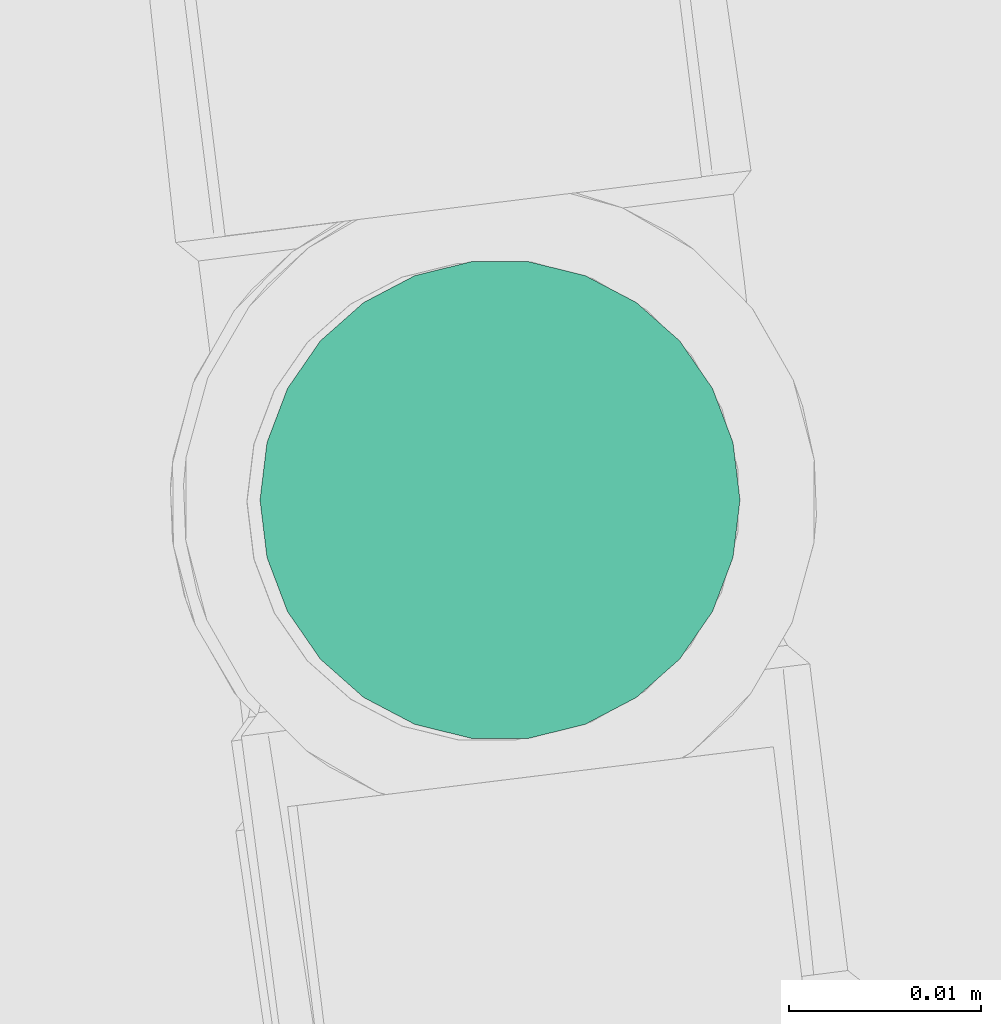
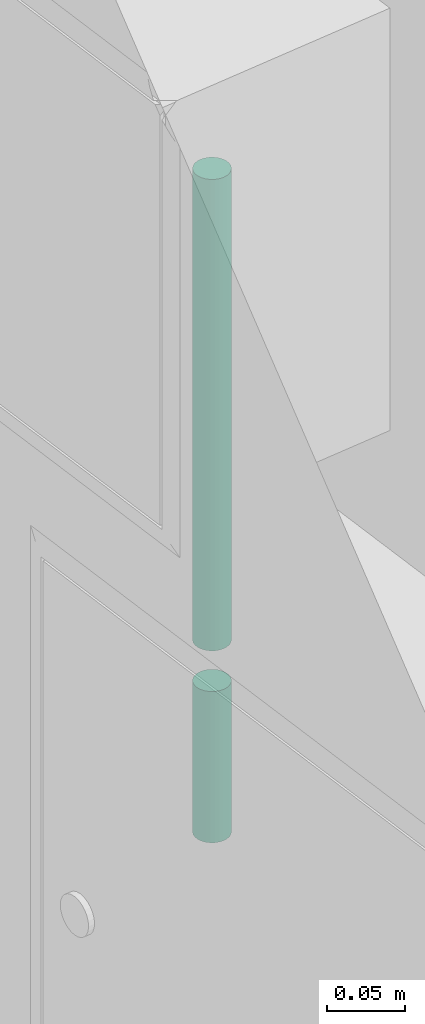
# One storey, part 48 of 97: 2 flow segments.
"""IFC2X3 building model written with IfcOpenShell, lengths in centimetres."""

from ifc_helpers import new_model, entity, si_unit, converted_unit, derived_unit, direction, frame, origin, origin_2d_with_axis, place, context, subcontext, project, spatial, circle, extrude, type_object, element, save


model = new_model("IFC2X3")

# Units and contexts
model_context = context("Model", 3, precision=0.001, world=origin(), true_north=direction((6.12303176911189e-17, 1.0)))
body_context = subcontext(model_context, "Body", "Model", "MODEL_VIEW")
ifc_project = project(units=[si_unit("LENGTHUNIT", "METRE", prefix="CENTI"), si_unit("AREAUNIT", "SQUARE_METRE"), si_unit("VOLUMEUNIT", "CUBIC_METRE"), converted_unit("PLANEANGLEUNIT", "DEGREE", entity("IfcRatioMeasure", 0.0174532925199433), si_unit("PLANEANGLEUNIT", "RADIAN"), dimensions=[0, 0, 0, 0, 0, 0, 0]), si_unit("MASSUNIT", "GRAM", prefix="KILO"), derived_unit("MASSDENSITYUNIT", [(si_unit("MASSUNIT", "GRAM", prefix="KILO"), 1), (si_unit("LENGTHUNIT", "METRE"), -3)]), derived_unit("MOMENTOFINERTIAUNIT", [(si_unit("LENGTHUNIT", "METRE"), 4)]), si_unit("TIMEUNIT", "SECOND"), si_unit("FREQUENCYUNIT", "HERTZ"), si_unit("THERMODYNAMICTEMPERATUREUNIT", "DEGREE_CELSIUS"), derived_unit("THERMALTRANSMITTANCEUNIT", [(si_unit("MASSUNIT", "GRAM", prefix="KILO"), 1), (si_unit("THERMODYNAMICTEMPERATUREUNIT", "KELVIN"), -1), (si_unit("TIMEUNIT", "SECOND"), -3)]), derived_unit("VOLUMETRICFLOWRATEUNIT", [(si_unit("LENGTHUNIT", "METRE"), 3), (si_unit("TIMEUNIT", "SECOND"), -1)]), si_unit("ELECTRICCURRENTUNIT", "AMPERE"), si_unit("ELECTRICVOLTAGEUNIT", "VOLT"), si_unit("POWERUNIT", "WATT"), si_unit("FORCEUNIT", "NEWTON", prefix="KILO"), si_unit("ILLUMINANCEUNIT", "LUX"), si_unit("LUMINOUSFLUXUNIT", "LUMEN"), si_unit("LUMINOUSINTENSITYUNIT", "CANDELA"), derived_unit("USERDEFINED", [(si_unit("MASSUNIT", "GRAM", prefix="KILO"), -1), (si_unit("LENGTHUNIT", "METRE"), -2), (si_unit("TIMEUNIT", "SECOND"), 3), (si_unit("LUMINOUSFLUXUNIT", "LUMEN"), 1)]), derived_unit("LINEARVELOCITYUNIT", [(si_unit("LENGTHUNIT", "METRE"), 1), (si_unit("TIMEUNIT", "SECOND"), -1)]), si_unit("PRESSUREUNIT", "PASCAL"), derived_unit("USERDEFINED", [(si_unit("LENGTHUNIT", "METRE"), -2), (si_unit("MASSUNIT", "GRAM", prefix="KILO"), 1), (si_unit("TIMEUNIT", "SECOND"), -2)]), derived_unit("LINEARFORCEUNIT", [(si_unit("MASSUNIT", "GRAM", prefix="KILO"), 1), (si_unit("LENGTHUNIT", "METRE"), 1), (si_unit("TIMEUNIT", "SECOND"), -2), (si_unit("LENGTHUNIT", "METRE"), -1)]), derived_unit("PLANARFORCEUNIT", [(si_unit("MASSUNIT", "GRAM", prefix="KILO"), 1), (si_unit("LENGTHUNIT", "METRE"), 1), (si_unit("TIMEUNIT", "SECOND"), -2), (si_unit("LENGTHUNIT", "METRE"), -2)])], contexts=[model_context])

# Site, building, storey
site_placement = place(None, origin())
site = spatial("IfcSite", under=ifc_project, at=site_placement, Name="Default", CompositionType="ELEMENT")
building_placement = place(site_placement, origin())
building = spatial("IfcBuilding", under=site, at=building_placement, Name="HIDROSSANITÁRIO", CompositionType="ELEMENT")
storey_placement = place(building_placement, frame((0.0, 0.0, -260.0)))
storey = spatial("IfcBuildingStorey", under=building, at=storey_placement, Name="TÉRREO-HID", CompositionType="ELEMENT", Elevation=-260.0)

# Flow segments
pipe_segment_type = type_object("IfcPipeSegmentType", Name="Tipos de tubos:Tubo Marrom - Água Fria - Soldável", PredefinedType="NOTDEFINED")
flow_segment_1_placement = place(storey_placement, origin())
element("IfcFlowSegment", 1, at=flow_segment_1_placement, inside=storey, type_object=pipe_segment_type, Name="Tipos de tubos:Tubo Marrom - Água Fria - Soldável", ObjectType="Tipos de tubos:Tubo Marrom - Água Fria - Soldável", context=body_context, shape_type="SweptSolid", body=[
    extrude(circle(Radius=1.25, at=origin_2d_with_axis()), frame((-2442.10469892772, 3256.35026797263, 32.6246769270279)), (0.0, 0.0, 1.0), 11.82),
])
flow_segment_2_placement = place(storey_placement, origin())
element("IfcFlowSegment", 2, at=flow_segment_2_placement, inside=storey, type_object=pipe_segment_type, Name="Tipos de tubos:Tubo Marrom - Água Fria - Soldável", ObjectType="Tipos de tubos:Tubo Marrom - Água Fria - Soldável", context=body_context, shape_type="SweptSolid", body=[
    extrude(circle(Radius=1.25, at=origin_2d_with_axis()), frame((-2442.10469892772, 3256.35026797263, 47.6246769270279)), (0.0, 0.0, 1.0), 36.8353230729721),
])

save(model, "model.ifc")
